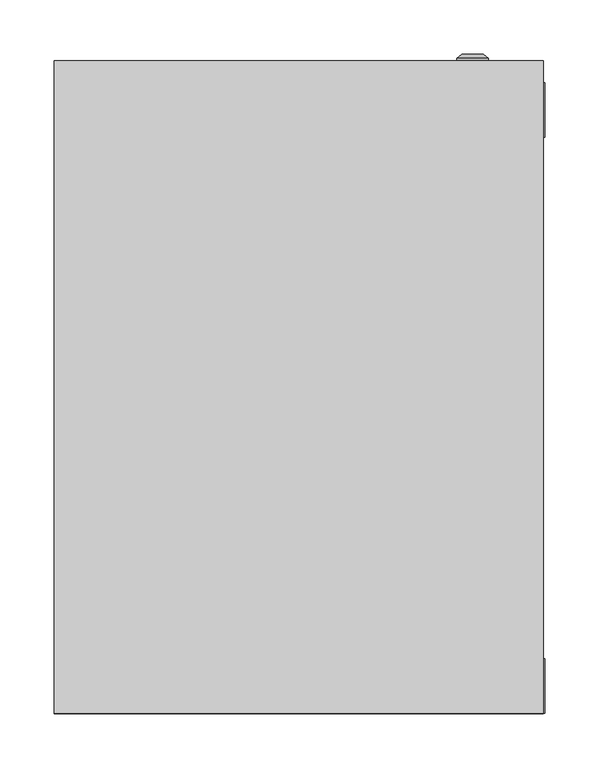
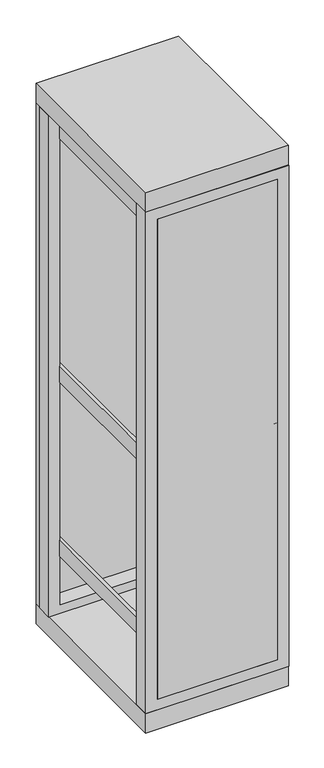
"""IFC4 building model written with IfcOpenShell, lengths in millimetres: proxy geometry, ВРУ-1 : ВРУ-1_1800х450х600."""

from ifc_helpers import new_model, si_unit, frame, origin, origin_with_axes, place, context, project, spatial, polyline, circle_curve, outline, extrude, source, transform, mapped, element, save
from ifc_brep_helpers import plane_surface, cylinder_surface, revolved_surface, advanced_brep


def electrical_equipment_f7069c38(model_context):
    return source(origin(), model_context, "Body", "SolidModel", [
        extrude(outline(polyline([(190.8707865, 0.0), (-188.3426966, 0.0), (-188.3426966, 10.0), (190.8707865, 10.0), (190.8707865, 0.0)])), frame((0.0, 0.0, 99.1378449), z_axis=(0.0, 0.0, 1.0), x_axis=(1.0, 0.0, 0.0)), (0.0, 0.0, 1.0), 1599.6160511),
        extrude(outline(polyline([(-180.8707865, 125.9831461), (-140.8707865, 125.9831461), (-140.8707865, 93.1179775), (-143.8707865, 93.1179775), (-143.8707865, 122.9831461), (-177.8707865, 122.9831461), (-177.8707865, 93.1179775), (-180.8707865, 93.1179775), (-180.8707865, 125.9831461)])), frame((0.0, 0.0, 189.6067416), z_axis=(0.0, 0.0, 1.0), x_axis=(1.0, 0.0, 0.0)), (0.0, 0.0, 1.0), 1545.3932584),
        extrude(outline(polyline([(140.8707865, 125.9831461), (180.8707865, 125.9831461), (180.8707865, 93.1179775), (177.8707865, 93.1179775), (177.8707865, 122.9831461), (143.8707865, 122.9831461), (143.8707865, 93.1179775), (140.8707865, 93.1179775), (140.8707865, 125.9831461)])), frame((0.0, 0.0, 189.6067416), z_axis=(0.0, 0.0, 1.0), x_axis=(1.0, 0.0, 0.0)), (0.0, 0.0, 1.0), 1545.3932584),
        extrude(outline(polyline([(-180.8707865, 10.0), (-190.8707865, 10.0), (-190.8707865, 580.0), (-180.8707865, 580.0), (-180.8707865, 10.0)])), frame((0.0, 0.0, 1645.5966059), z_axis=(0.0, 0.0, 1.0), x_axis=(1.0, 0.0, 0.0)), (0.0, 0.0, 1.0), 53.0898876),
        extrude(outline(polyline([(190.8707865, 10.0), (180.8707865, 10.0), (180.8707865, 580.0), (190.8707865, 580.0), (190.8707865, 10.0)])), frame((0.0, 0.0, 1645.5966059), z_axis=(0.0, 0.0, 1.0), x_axis=(1.0, 0.0, 0.0)), (0.0, 0.0, 1.0), 53.0898876),
        extrude(outline(polyline([(-180.8707865, 10.0), (-190.8707865, 10.0), (-190.8707865, 580.0), (-180.8707865, 580.0), (-180.8707865, 10.0)])), frame((0.0, 0.0, 255.5966059), z_axis=(0.0, 0.0, 1.0), x_axis=(1.0, 0.0, 0.0)), (0.0, 0.0, 1.0), 53.0898876),
        extrude(outline(polyline([(190.8707865, 10.0), (180.8707865, 10.0), (180.8707865, 580.0), (190.8707865, 580.0), (190.8707865, 10.0)])), frame((0.0, 0.0, 255.5966059), z_axis=(0.0, 0.0, 1.0), x_axis=(1.0, 0.0, 0.0)), (0.0, 0.0, 1.0), 53.0898876),
        extrude(outline(polyline([(-180.8707865, 10.0), (-190.8707865, 10.0), (-190.8707865, 580.0), (-180.8707865, 580.0), (-180.8707865, 10.0)])), frame((0.0, 0.0, 835.5966059), z_axis=(0.0, 0.0, 1.0), x_axis=(1.0, 0.0, 0.0)), (0.0, 0.0, 1.0), 53.0898876),
        extrude(outline(polyline([(190.8707865, 0.0), (180.8707865, 0.0), (180.8707865, 580.0), (190.8707865, 580.0), (190.8707865, 0.0)])), frame((0.0, 0.0, 835.5966059), z_axis=(0.0, 0.0, 1.0), x_axis=(1.0, 0.0, 0.0)), (0.0, 0.0, 1.0), 53.0898876),
        extrude(outline(polyline([(1734.1471543, -225.0), (65.0187804, -225.0), (65.0187804, 226.2640449), (1734.1471543, 226.2640449), (1734.1471543, -225.0)]), holes=[polyline([(99.1378449, 190.8707865), (99.1378449, -188.3426966), (1698.7538959, -188.3426966), (1698.7538959, 190.8707865), (99.1378449, 190.8707865)])]), frame((0.0, 0.0, 0.0), z_axis=(0.0, 1.0, 0.0), x_axis=(0.0, 0.0, 1.0)), (0.0, 0.0, 1.0), 50.0),
        extrude(outline(polyline([(1735.0, -225.0), (65.0187804, -225.0), (65.0187804, 226.2640449), (1735.0, 226.2640449), (1735.0, -225.0)]), holes=[polyline([(93.3701084, 190.8707865), (93.3701084, -188.3426966), (1692.9861595, -188.3426966), (1692.9861595, 190.8707865), (93.3701084, 190.8707865)])]), frame((0.0, 530.0, 0.0), z_axis=(0.0, 1.0, 0.0), x_axis=(0.0, 0.0, 1.0)), (0.0, 0.0, 1.0), 50.0),
        extrude(outline(polyline([(225.0067809, 600.0), (225.0067809, 0.0), (-225.0, 0.0), (-225.0, 600.0), (225.0067809, 600.0)])), frame((0.0, 0.0, 1735.0), z_axis=(0.0, 0.0, 1.0), x_axis=(1.0, 0.0, 0.0)), (0.0, 0.0, 1.0), 65.0),
        advanced_brep(
        [(145.669873, 600.0, 415.0), (174.330127, 600.0, 415.0), (160.0, 600.0, 415.0), (145.669873, 602.366592, 415.0), (174.330127, 602.366592, 415.0), (150.0, 606.0, 415.0), (170.0, 606.0, 415.0), (158.1080471, 606.0, 415.0), (161.8919529, 606.0, 415.0), (158.1080471, 604.9822294, 415.0), (161.8919529, 604.9822294, 415.0), (160.0, 604.9822294, 415.0)],
        [
            (0, 1, circle_curve(frame((160.0, 600.0, 415.0), z_axis=(0.0, -1.0, 0.0), x_axis=(1.0, 0.0, 0.0)), 14.330127)),
            (1, 2),
            (2, 0),
            (1, 0, circle_curve(frame((160.0, 600.0, 415.0), z_axis=(0.0, -1.0, 0.0), x_axis=(1.0, 0.0, 0.0)), 14.330127)),
            (3, 4, circle_curve(frame((160.0, 602.366592, 415.0), z_axis=(0.0, -1.0, 0.0), x_axis=(1.0, 0.0, 0.0)), 14.330127)),
            (4, 1),
            (0, 3),
            (4, 3, circle_curve(frame((160.0, 602.366592, 415.0), z_axis=(0.0, -1.0, 0.0), x_axis=(1.0, 0.0, 0.0)), 14.330127)),
            (5, 6, circle_curve(frame((160.0, 606.0, 415.0), z_axis=(0.0, -1.0, 0.0), x_axis=(1.0, 0.0, 0.0)), 10.0)),
            (6, 4),
            (3, 5),
            (6, 5, circle_curve(frame((160.0, 606.0, 415.0), z_axis=(0.0, -1.0, 0.0), x_axis=(1.0, 0.0, 0.0)), 10.0)),
            (7, 8, circle_curve(frame((160.0, 606.0, 415.0), z_axis=(0.0, -1.0, 0.0), x_axis=(1.0, 0.0, 0.0)), 1.8919529)),
            (8, 6),
            (5, 7),
            (8, 7, circle_curve(frame((160.0, 606.0, 415.0), z_axis=(0.0, -1.0, 0.0), x_axis=(1.0, 0.0, 0.0)), 1.8919529)),
            (9, 10, circle_curve(frame((160.0, 604.9822294, 415.0), z_axis=(0.0, -1.0, 0.0), x_axis=(1.0, 0.0, 0.0)), 1.8919529)),
            (10, 8),
            (7, 9),
            (10, 9, circle_curve(frame((160.0, 604.9822294, 415.0), z_axis=(0.0, -1.0, 0.0), x_axis=(1.0, 0.0, 0.0)), 1.8919529)),
            (11, 10),
            (9, 11),
        ],
        [
            plane_surface(frame((160.0, 600.0, 415.0), z_axis=(0.0, -1.0, 0.0), x_axis=(1.0, 0.0, 0.0))),
            cylinder_surface(frame((160.0, 613.1348851, 415.0), z_axis=(0.0, 1.0, 0.0), x_axis=(1.0, 0.0, 0.0)), 14.330127),
            revolved_surface(polyline([(174.330127, 602.366592, 415.0), (170.0, 606.0, 415.0)]), (160.0, 613.1348851, 415.0), (0.0, 1.0, 0.0)),
            plane_surface(frame((160.0, 606.0, 415.0), z_axis=(0.0, 1.0, 0.0), x_axis=(1.0, 0.0, 0.0))),
            revolved_surface(polyline([(161.8919529, 606.0, 415.0), (161.8919529, 604.9822294, 415.0)]), (160.0, 613.1348851, 415.0), (0.0, 1.0, 0.0)),
            plane_surface(frame((160.0, 604.9822294, 415.0), z_axis=(0.0, 1.0, 0.0), x_axis=(1.0, 0.0, 0.0))),
        ],
        [
            (0, [[1, 2, 3]]),
            (0, [[4, -3, -2]]),
            (1, [[5, 6, -1, 7]]),
            (1, [[8, -7, -4, -6]]),
            (2, [[9, 10, -5, 11]]),
            (2, [[12, -11, -8, -10]]),
            (3, [[13, 14, -9, 15]]),
            (3, [[16, -15, -12, -14]]),
            (4, [[17, 18, -13, 19]]),
            (4, [[20, -19, -16, -18]]),
            (5, [[21, -17, 22]]),
            (5, [[-22, -20, -21]]),
        ],
    ),
        advanced_brep(
        [(145.669873, 600.0, 1385.0), (174.330127, 600.0, 1385.0), (160.0, 600.0, 1385.0), (145.669873, 602.366592, 1385.0), (174.330127, 602.366592, 1385.0), (150.0, 606.0, 1385.0), (170.0, 606.0, 1385.0), (158.1080471, 606.0, 1385.0), (161.8919529, 606.0, 1385.0), (158.1080471, 604.9822294, 1385.0), (161.8919529, 604.9822294, 1385.0), (160.0, 604.9822294, 1385.0)],
        [
            (0, 1, circle_curve(frame((160.0, 600.0, 1385.0), z_axis=(0.0, -1.0, 0.0), x_axis=(1.0, 0.0, 0.0)), 14.330127)),
            (1, 2),
            (2, 0),
            (1, 0, circle_curve(frame((160.0, 600.0, 1385.0), z_axis=(0.0, -1.0, 0.0), x_axis=(1.0, 0.0, 0.0)), 14.330127)),
            (3, 4, circle_curve(frame((160.0, 602.366592, 1385.0), z_axis=(0.0, -1.0, 0.0), x_axis=(1.0, 0.0, 0.0)), 14.330127)),
            (4, 1),
            (0, 3),
            (4, 3, circle_curve(frame((160.0, 602.366592, 1385.0), z_axis=(0.0, -1.0, 0.0), x_axis=(1.0, 0.0, 0.0)), 14.330127)),
            (5, 6, circle_curve(frame((160.0, 606.0, 1385.0), z_axis=(0.0, -1.0, 0.0), x_axis=(1.0, 0.0, 0.0)), 10.0)),
            (6, 4),
            (3, 5),
            (6, 5, circle_curve(frame((160.0, 606.0, 1385.0), z_axis=(0.0, -1.0, 0.0), x_axis=(1.0, 0.0, 0.0)), 10.0)),
            (7, 8, circle_curve(frame((160.0, 606.0, 1385.0), z_axis=(0.0, -1.0, 0.0), x_axis=(1.0, 0.0, 0.0)), 1.8919529)),
            (8, 6),
            (5, 7),
            (8, 7, circle_curve(frame((160.0, 606.0, 1385.0), z_axis=(0.0, -1.0, 0.0), x_axis=(1.0, 0.0, 0.0)), 1.8919529)),
            (9, 10, circle_curve(frame((160.0, 604.9822294, 1385.0), z_axis=(0.0, -1.0, 0.0), x_axis=(1.0, 0.0, 0.0)), 1.8919529)),
            (10, 8),
            (7, 9),
            (10, 9, circle_curve(frame((160.0, 604.9822294, 1385.0), z_axis=(0.0, -1.0, 0.0), x_axis=(1.0, 0.0, 0.0)), 1.8919529)),
            (11, 10),
            (9, 11),
        ],
        [
            plane_surface(frame((160.0, 600.0, 1385.0), z_axis=(0.0, -1.0, 0.0), x_axis=(1.0, 0.0, 0.0))),
            cylinder_surface(frame((160.0, 613.1348851, 1385.0), z_axis=(0.0, 1.0, 0.0), x_axis=(1.0, 0.0, 0.0)), 14.330127),
            revolved_surface(polyline([(174.330127, 602.366592, 1385.0), (170.0, 606.0, 1385.0)]), (160.0, 613.1348851, 1385.0), (0.0, 1.0, 0.0)),
            plane_surface(frame((160.0, 606.0, 1385.0), z_axis=(0.0, 1.0, 0.0), x_axis=(1.0, 0.0, 0.0))),
            revolved_surface(polyline([(161.8919529, 606.0, 1385.0), (161.8919529, 604.9822294, 1385.0)]), (160.0, 613.1348851, 1385.0), (0.0, 1.0, 0.0)),
            plane_surface(frame((160.0, 604.9822294, 1385.0), z_axis=(0.0, 1.0, 0.0), x_axis=(1.0, 0.0, 0.0))),
        ],
        [
            (0, [[1, 2, 3]]),
            (0, [[4, -3, -2]]),
            (1, [[5, 6, -1, 7]]),
            (1, [[8, -7, -4, -6]]),
            (2, [[9, 10, -5, 11]]),
            (2, [[12, -11, -8, -10]]),
            (3, [[13, 14, -9, 15]]),
            (3, [[16, -15, -12, -14]]),
            (4, [[17, 18, -13, 19]]),
            (4, [[20, -19, -16, -18]]),
            (5, [[21, -17, 22]]),
            (5, [[-22, -20, -21]]),
        ],
    ),
        extrude(outline(polyline([(225.0067809, 600.0), (225.0067809, 0.0), (-225.0, 0.0), (-225.0, 600.0), (225.0067809, 600.0)])), origin_with_axes(), (0.0, 0.0, 1.0), 65.0187804),
        extrude(outline(polyline([(225.0, 580.0), (-225.0, 580.0), (-225.0, 600.0), (225.0, 600.0), (225.0, 580.0)])), frame((0.0, 0.0, 65.0187804), z_axis=(0.0, 0.0, 1.0), x_axis=(1.0, 0.0, 0.0)), (0.0, 0.0, 1.0), 1669.9812196),
    ])


if __name__ == "__main__":
    model = new_model("IFC4")
    model_context = context("Model", 3, world=origin())
    ifc_project = project(units=[si_unit("LENGTHUNIT", "METRE", prefix="MILLI")], contexts=[model_context])
    site = spatial("IfcSite", under=ifc_project)
    building = spatial("IfcBuilding", under=site)
    placement = place(None, origin())
    electrical_equipment_shape = electrical_equipment_f7069c38(model_context)
    element("IfcBuildingElementProxy", 1, Name="ВРУ-1 : ВРУ-1_1800х450х600", ObjectType="ВРУ-1 : ВРУ-1_1800х450х600", at=placement, inside=building, context=model_context, shape_type="MappedRepresentation", body=[
        mapped(electrical_equipment_shape, transform((0.0, 0.0, 0.0), x_axis=(1.0, 0.0, 0.0), y_axis=(0.0, 1.0, 0.0), z_axis=(0.0, 0.0, 1.0))),
    ])
    save(model, "model.ifc")
